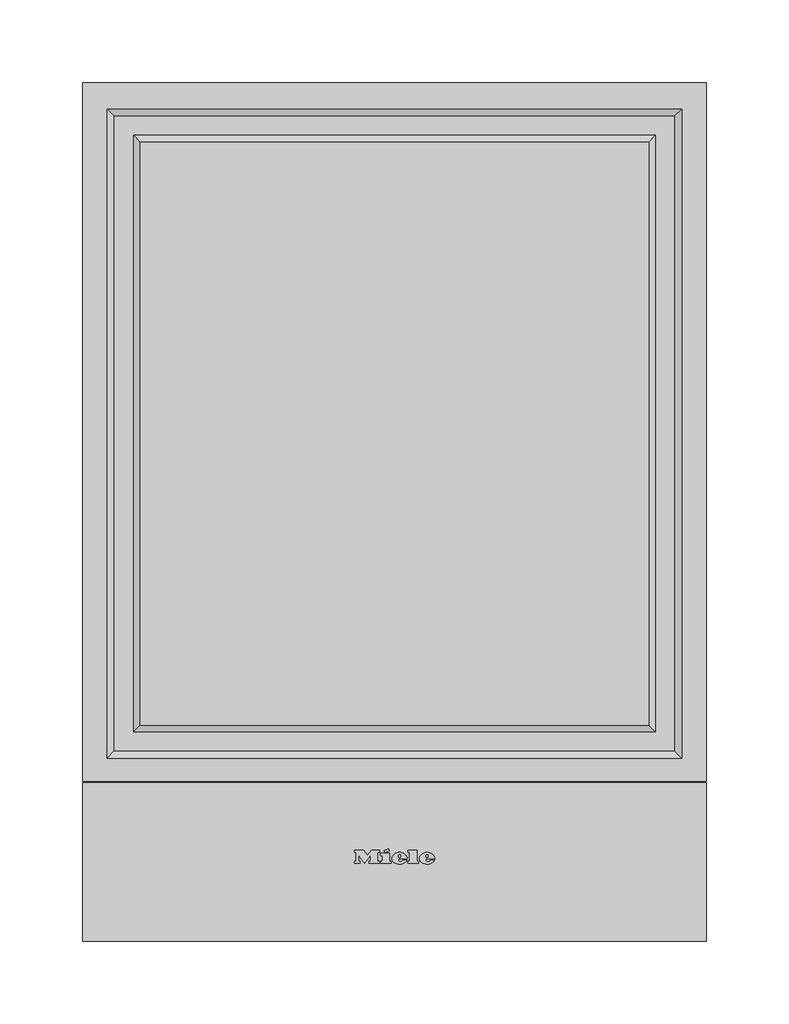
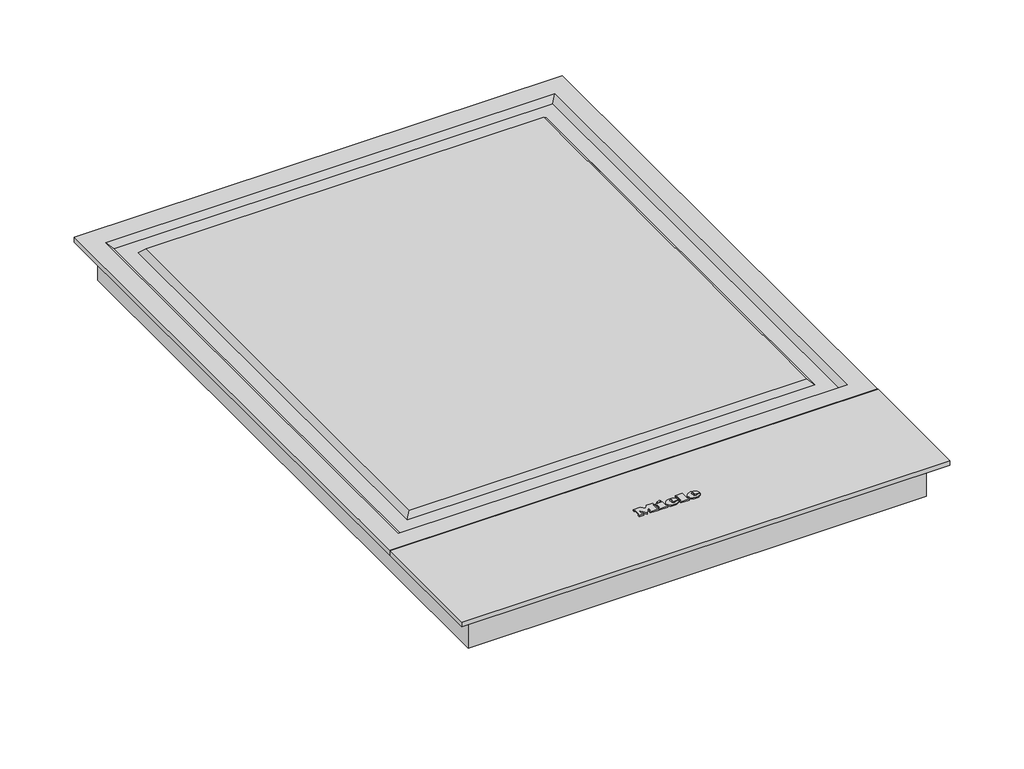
# Not in any storey: 1 proxy.
"""IFC4 building model written with IfcOpenShell, lengths in millimetres."""

import ifcopenshell
import ifcopenshell.guid

model = None  # the IFC model being written
_history = None  # IfcOwnerHistory: only IFC2X3 demands one
_inside = {}  # id of a spatial element -> (the spatial element, [elements in it])
_under = {}  # id of a project, library or spatial element -> (it, [spatial elements below it])
_declared = {}  # id of a project -> (the project, [libraries it declares])
_typed = {}  # id of a type object -> (the type object, [elements of that type])
_made_of = {}  # id of a material, layer set ... -> (it, [elements and type objects made of it])


def new_model(schema):
    """Start an empty IFC model of exactly this schema.

    Asked for "IFC4X3", IfcOpenShell would pick the latest addendum, in which some entities
    have other attributes; the version numbers below select the first issue.
    IFC2X3 requires an IfcOwnerHistory on every rooted entity: one is made here for all.
    """
    global model, _history
    if schema == "IFC4X3":
        model = ifcopenshell.file(schema_version=(4, 3, 0, 0))
    else:
        model = ifcopenshell.file(schema=schema)
    _inside.clear()
    _under.clear()
    _declared.clear()
    _typed.clear()
    _made_of.clear()
    _history = None
    if model.schema == "IFC2X3":
        org = make("IfcOrganization", Name="unknown")
        user = make(
            "IfcPersonAndOrganization",
            ThePerson=make("IfcPerson", FamilyName="unknown"),
            TheOrganization=org,
        )
        app = make(
            "IfcApplication",
            ApplicationDeveloper=org,
            Version="unknown",
            ApplicationFullName="unknown",
            ApplicationIdentifier="unknown",
        )
        _history = make(
            "IfcOwnerHistory",
            OwningUser=user,
            OwningApplication=app,
            ChangeAction="ADDED",
            CreationDate=0,
        )
    return model


def make(cls, **values):
    """One entity of the class cls with the attributes given. An attribute that is None is left unset."""
    return model.create_entity(
        cls, **{name: value for name, value in values.items() if value is not None}
    )


def rooted(cls, **values):
    """An entity with a GlobalId (a new one), such as an element, a storey or a relation."""
    return make(cls, GlobalId=ifcopenshell.guid.new(), OwnerHistory=_history, **values)


def si_unit(unit_type, name, prefix=None):
    """IfcSIUnit, for example si_unit("LENGTHUNIT", "METRE", prefix="MILLI")."""
    return make("IfcSIUnit", UnitType=unit_type, Prefix=prefix, Name=name)


def assignment(units):
    """IfcUnitAssignment: the units of a project."""
    return None if units is None else make("IfcUnitAssignment", Units=units)


def point(xyz):
    """IfcCartesianPoint."""
    return None if xyz is None else make("IfcCartesianPoint", Coordinates=xyz)


def direction(xyz):
    """IfcDirection."""
    return None if xyz is None else make("IfcDirection", DirectionRatios=xyz)


def frame(location, z_axis=None, x_axis=None):
    """IfcAxis2Placement3D, a coordinate frame: its origin and axes. An axis left out is left unset."""
    return make(
        "IfcAxis2Placement3D",
        Location=point(location),
        Axis=direction(z_axis),
        RefDirection=direction(x_axis),
    )


def frame_2d(location, x_axis=None):
    """IfcAxis2Placement2D, a coordinate frame in the plane: its origin and x axis."""
    return make(
        "IfcAxis2Placement2D", Location=point(location), RefDirection=direction(x_axis)
    )


def origin():
    """The frame at (0, 0, 0) with its axes left unset."""
    return frame((0.0, 0.0, 0.0))


def origin_with_axes():
    """The frame at (0, 0, 0) with the z axis (0, 0, 1) and the x axis (1, 0, 0) written out."""
    return frame((0.0, 0.0, 0.0), z_axis=(0.0, 0.0, 1.0), x_axis=(1.0, 0.0, 0.0))


def place(relative_to, where):
    """IfcLocalPlacement: puts the frame where relative to a parent placement (None: the world)."""
    return make(
        "IfcLocalPlacement", PlacementRelTo=relative_to, RelativePlacement=where
    )


def context(
    kind, dimensions, precision=None, world=None, true_north=None, identifier=None
):
    """IfcGeometricRepresentationContext, for example the 3D "Model" context."""
    return make(
        "IfcGeometricRepresentationContext",
        ContextIdentifier=identifier,
        ContextType=kind,
        CoordinateSpaceDimension=dimensions,
        Precision=precision,
        WorldCoordinateSystem=world,
        TrueNorth=true_north,
    )


def project(units=None, contexts=None):
    """IfcProject with its units and contexts."""
    return rooted(
        "IfcProject",
        Name="project",
        RepresentationContexts=contexts,
        UnitsInContext=assignment(units),
    )


def spatial(cls, under=None, at=None, **own):
    """A site, building, storey or space (cls), placed at a placement, below another one or the project."""
    s = rooted(cls, ObjectPlacement=at, **own)
    if under is not None:
        _under.setdefault(under.id(), (under, []))[1].append(s)
    return s


def polyline(points):
    """IfcPolyline through the points."""
    return make("IfcPolyline", Points=[point(p) for p in points])


def circle_curve(where, radius):
    """IfcCircle in the frame where."""
    return make("IfcCircle", Position=where, Radius=radius)


def ellipse_curve(where, semi_axis1, semi_axis2):
    """IfcEllipse in the frame where."""
    return make(
        "IfcEllipse", Position=where, SemiAxis1=semi_axis1, SemiAxis2=semi_axis2
    )


def trimmed(basis, trim1, trim2, sense, master):
    """IfcTrimmedCurve: the piece of a basis curve between two trims."""
    return make(
        "IfcTrimmedCurve",
        BasisCurve=basis,
        Trim1=trim1,
        Trim2=trim2,
        SenseAgreement=sense,
        MasterRepresentation=master,
    )


def segment(curve, same_sense, transition):
    """IfcCompositeCurveSegment."""
    return make(
        "IfcCompositeCurveSegment",
        Transition=transition,
        SameSense=same_sense,
        ParentCurve=curve,
    )


def composite_curve(segments, self_intersect=None):
    """IfcCompositeCurve: segments joined end to end."""
    return make("IfcCompositeCurve", Segments=segments, SelfIntersect=self_intersect)


def outline(outer, holes=None, kind="AREA"):
    """IfcArbitraryClosedProfileDef: a profile drawn as a closed curve; with holes, ...WithVoids."""
    if holes is None:
        return make("IfcArbitraryClosedProfileDef", ProfileType=kind, OuterCurve=outer)
    return make(
        "IfcArbitraryProfileDefWithVoids",
        ProfileType=kind,
        OuterCurve=outer,
        InnerCurves=holes,
    )


def extrude(swept, where, along, depth):
    """IfcExtrudedAreaSolid: the profile swept, set in the frame where, extruded along a direction by depth."""
    return make(
        "IfcExtrudedAreaSolid",
        SweptArea=swept,
        Position=where,
        ExtrudedDirection=direction(along),
        Depth=depth,
    )


def faces_of(points, faces, orient=None, outer=None):
    """IfcFace entities. A face is a list of loops; a loop is a list of indices into points, from 0.

    orient and outer hold one flag for each loop. By default every Orientation is true, the
    first loop of a face is its IfcFaceOuterBound and the others are IfcFaceBound.
    """
    made = []
    for i, loops in enumerate(faces):
        bounds = []
        for j, loop in enumerate(loops):
            is_outer = j == 0 if outer is None else outer[i][j]
            bounds.append(
                make(
                    "IfcFaceOuterBound" if is_outer else "IfcFaceBound",
                    Bound=make("IfcPolyLoop", Polygon=[points[k] for k in loop]),
                    Orientation=True if orient is None else orient[i][j],
                )
            )
        made.append(make("IfcFace", Bounds=bounds))
    return made


def faceted_brep(points, faces, orient=None, outer=None, voids=None):
    """IfcFacetedBrep: a solid bounded by flat faces; with voids (closed shells), ...WithVoids."""
    shared = [point(p) for p in points]
    hull = make("IfcClosedShell", CfsFaces=faces_of(shared, faces, orient, outer))
    if voids is None:
        return make("IfcFacetedBrep", Outer=hull)
    return make(
        "IfcFacetedBrepWithVoids",
        Outer=hull,
        Voids=[
            make(cls, CfsFaces=faces_of(shared, fs, o, b)) for cls, fs, o, b in voids
        ],
    )


def shape(context_of_items, identifier, shape_type, items):
    """IfcShapeRepresentation: the items that make up one representation, for example the "Body"."""
    return make(
        "IfcShapeRepresentation",
        ContextOfItems=context_of_items,
        RepresentationIdentifier=identifier,
        RepresentationType=shape_type,
        Items=items,
    )


def source(mapping_origin, context_of_items, identifier, shape_type, items):
    """IfcRepresentationMap: a shape defined once, which mapped items show again and again."""
    return make(
        "IfcRepresentationMap",
        MappingOrigin=mapping_origin,
        MappedRepresentation=shape(context_of_items, identifier, shape_type, items),
    )


def transform(
    local_origin,
    x_axis=None,
    y_axis=None,
    z_axis=None,
    scale=None,
    scale2=None,
    scale3=None,
    uniform=True,
):
    """IfcCartesianTransformationOperator3D, or its non-uniform kind. x_axis, y_axis, z_axis: its Axis1, 2, 3."""
    if uniform:
        return make(
            "IfcCartesianTransformationOperator3D",
            Axis1=direction(x_axis),
            Axis2=direction(y_axis),
            LocalOrigin=point(local_origin),
            Scale=scale,
            Axis3=direction(z_axis),
        )
    return make(
        "IfcCartesianTransformationOperator3DnonUniform",
        Axis1=direction(x_axis),
        Axis2=direction(y_axis),
        LocalOrigin=point(local_origin),
        Scale=scale,
        Axis3=direction(z_axis),
        Scale2=scale2,
        Scale3=scale3,
    )


def mapped(mapping_source, mapping_target):
    """IfcMappedItem: shows the shape of a source again, moved by a transform."""
    return make(
        "IfcMappedItem", MappingSource=mapping_source, MappingTarget=mapping_target
    )


def made_of(thing, what):
    """Note that an element or type object is made of a material, layer set ...; save() writes the relation."""
    if what is not None:
        _made_of.setdefault(what.id(), (what, []))[1].append(thing)
    return thing


def element(
    cls,
    number,
    at=None,
    inside=None,
    cuts=None,
    type_object=None,
    material=None,
    context=None,
    identifier="Body",
    shape_type=None,
    held_by="IfcProductDefinitionShape",
    body=None,
    shapes=None,
    **own,
):
    """One element of the class cls, such as IfcWall. Its Tag is "e" and its number.

    at: its placement. inside: the storey or other place that contains it. cuts: it is an
    opening in that element (IfcRelVoidsElement). A single representation is given by context,
    identifier, shape_type and body (its items); several are given by shapes. held_by: the class
    of the entity that holds the representations. save() writes the other relations.
    """
    e = rooted(cls, Tag="e%d" % number, ObjectPlacement=at, **own)
    if body is not None:
        shapes = [shape(context, identifier, shape_type, body)]
    if shapes is not None:
        e.Representation = make(held_by, Representations=shapes)
    if inside is not None:
        _inside.setdefault(inside.id(), (inside, []))[1].append(e)
    if cuts is not None:
        rooted(
            "IfcRelVoidsElement", RelatingBuildingElement=cuts, RelatedOpeningElement=e
        )
    if type_object is not None:
        _typed.setdefault(type_object.id(), (type_object, []))[1].append(e)
    return made_of(e, material)


def aggregate(whole, parts):
    """IfcRelAggregates: a whole, such as a stair, and the parts it consists of."""
    return rooted("IfcRelAggregates", RelatingObject=whole, RelatedObjects=parts)


def save(model, path):
    """Write the relations noted so far, then the file.

    IfcRelAggregates (storeys below a building ...), IfcRelContainedInSpatialStructure (elements
    in a storey), IfcRelDefinesByType, IfcRelAssociatesMaterial and IfcRelDeclares: one each for
    every whole, place, type object, material and project.
    """
    for whole, parts in _under.values():
        aggregate(whole, parts)
    for where, things in _inside.values():
        rooted(
            "IfcRelContainedInSpatialStructure",
            RelatedElements=things,
            RelatingStructure=where,
        )
    for kind, things in _typed.values():
        rooted("IfcRelDefinesByType", RelatedObjects=things, RelatingType=kind)
    for what, things in _made_of.values():
        rooted("IfcRelAssociatesMaterial", RelatedObjects=things, RelatingMaterial=what)
    for by, libraries in _declared.values():
        rooted("IfcRelDeclares", RelatingContext=by, RelatedDefinitions=libraries)
    model.write(path)


def plane_surface(at):
    """IfcPlane: the flat surface through the origin of the frame at, square to its z axis."""
    return make("IfcPlane", Position=at)


def cylinder_surface(at, radius):
    """IfcCylindricalSurface: all points at the distance radius from the z axis of the frame at."""
    return make("IfcCylindricalSurface", Position=at, Radius=radius)


def revolved_surface(curve, axis_point, axis_direction):
    """IfcSurfaceOfRevolution: the curve turned about the line through axis_point along axis_direction."""
    return make(
        "IfcSurfaceOfRevolution",
        SweptCurve=make("IfcArbitraryOpenProfileDef", ProfileType="CURVE", Curve=curve),
        AxisPosition=make("IfcAxis1Placement", Location=point(axis_point), Axis=direction(axis_direction)),
    )


def extruded_surface(curve, direction_of_extrusion, depth):
    """IfcSurfaceOfLinearExtrusion: the curve pushed along a direction by depth."""
    return make(
        "IfcSurfaceOfLinearExtrusion",
        SweptCurve=make("IfcArbitraryOpenProfileDef", ProfileType="CURVE", Curve=curve),
        ExtrudedDirection=direction(direction_of_extrusion),
        Depth=depth,
    )


def advanced_brep(points, edges, surfaces, faces):
    """IfcAdvancedBrep: a solid bounded by faces that lie on surfaces and meet in shared edges.

    An edge is (start, end): straight between two places in points (the first is 0);
    or (start, end, curve); or (start, end, curve, False) where it runs against its curve.
    A face is (place in surfaces, loops), or (place, loops, False) where it looks against
    its surface's normal. A loop lists edges by number (the first is 1), with a minus sign
    where the edge is run from its end to its start. The first loop is the outer one.
    """
    corners = [point(p) for p in points]
    vertices = [make("IfcVertexPoint", VertexGeometry=c) for c in corners]
    made = []
    for start, end, *more in edges:
        made.append(
            make(
                "IfcEdgeCurve",
                EdgeStart=vertices[start],
                EdgeEnd=vertices[end],
                EdgeGeometry=more[0] if more else make("IfcPolyline", Points=[corners[start], corners[end]]),
                SameSense=more[1] if len(more) > 1 else True,
            )
        )
    hull = []
    for where, loops, *sense in faces:
        bounds = []
        for j, loop in enumerate(loops):
            ring = [make("IfcOrientedEdge", EdgeElement=made[abs(k) - 1], Orientation=k > 0) for k in loop]
            bounds.append(
                make(
                    "IfcFaceOuterBound" if j == 0 else "IfcFaceBound",
                    Bound=make("IfcEdgeLoop", EdgeList=ring),
                    Orientation=True,
                )
            )
        hull.append(make("IfcAdvancedFace", Bounds=bounds, FaceSurface=surfaces[where], SameSense=sense[0] if sense else True))
    return make("IfcAdvancedBrep", Outer=make("IfcClosedShell", CfsFaces=hull))


def specialty_equipment_c195ef97(model_context):
    return source(origin(), model_context, "Body", "SolidModel", [
        advanced_brep(
        [(19.06, 49.1959995, 4.9919765), (19.06, 50.0039992, 4.9925904), (24.412, 50.0039992, 4.9925904), (15.1, 50.0039992, 4.9925904), (17.3, 47.3, 4.990536), (24.276, 49.1959995, 4.9919765), (21.86, 49.1959995, 4.9919765), (19.956, 48.2999997, 4.9912958), (19.06, 51.0279989, 4.9933684), (19.06, 51.8999987, 4.9940309), (20.428, 51.8999987, 4.9940309), (20.428, 51.0279989, 4.9933684), (19.06, 49.1967592, 3.9919768), (19.956, 48.3007595, 3.9912961), (21.86, 49.1967592, 3.9919768), (24.276, 49.1967592, 3.9919768), (17.3, 47.3007598, 3.9905363), (15.1, 50.004759, 3.9925907), (24.412, 50.004759, 3.9925907), (19.06, 50.004759, 3.9925907), (19.06, 51.0287587, 3.9933687), (20.428, 51.0287587, 3.9933687), (20.428, 51.9007584, 3.9940312), (19.06, 51.9007584, 3.9940312)],
        [
            (0, 1),
            (1, 2),
            (2, 3, ellipse_curve(frame((19.756, 50.0039992, 4.9925904), z_axis=(0.0, -0.0007597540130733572, 0.9999997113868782), x_axis=(-1.0, 0.0, 0.0)), 4.656, 3.848)),
            (3, 4, circle_curve(frame((18.1960436, 50.2759991, 4.9927971), z_axis=(0.0, -0.0007597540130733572, 0.9999997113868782), x_axis=(0.0, -0.9999997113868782, -0.0007597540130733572)), 3.1079688)),
            (4, 5, circle_curve(frame((19.6627936, 52.3879985, 4.9944017), z_axis=(0.0, -0.0007597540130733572, 0.9999997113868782), x_axis=(0.0, -0.9999997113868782, -0.0007597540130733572)), 5.6098607)),
            (5, 6),
            (6, 7, circle_curve(frame((20.3470588, 49.9399992, 4.9925418), z_axis=(0.0, 0.0007597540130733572, -0.9999997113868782), x_axis=(0.0, -0.9999997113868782, -0.0007597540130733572)), 1.6859795)),
            (7, 0, circle_curve(frame((19.956, 49.1959995, 4.9919765), z_axis=(0.0, 0.0007597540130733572, -0.9999997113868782), x_axis=(0.0, -0.9999997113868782, -0.0007597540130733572)), 0.896)),
            (8, 9),
            (9, 10, circle_curve(frame((19.744, 51.8999987, 4.9940309), z_axis=(0.0, 0.0007597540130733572, -0.9999997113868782), x_axis=(0.0, -0.9999997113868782, -0.0007597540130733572)), 0.684)),
            (10, 11),
            (11, 8),
            (12, 13, circle_curve(frame((19.956, 49.1967592, 3.9919768), z_axis=(0.0, -0.0007597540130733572, 0.9999997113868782), x_axis=(0.0, -0.9999997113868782, -0.0007597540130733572)), 0.896)),
            (13, 14, circle_curve(frame((20.3470588, 49.940759, 3.9925421), z_axis=(0.0, -0.0007597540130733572, 0.9999997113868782), x_axis=(0.0, -0.9999997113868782, -0.0007597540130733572)), 1.6859795)),
            (14, 15),
            (15, 16, circle_curve(frame((19.6627936, 52.3887583, 3.994402), z_axis=(0.0, 0.0007597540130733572, -0.9999997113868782), x_axis=(0.0, -0.9999997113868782, -0.0007597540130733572)), 5.6098607)),
            (16, 17, circle_curve(frame((18.1960436, 50.2767589, 3.9927974), z_axis=(0.0, 0.0007597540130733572, -0.9999997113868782), x_axis=(0.0, -0.9999997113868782, -0.0007597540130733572)), 3.1079688)),
            (17, 18, ellipse_curve(frame((19.756, 50.004759, 3.9925907), z_axis=(0.0, 0.0007597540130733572, -0.9999997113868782), x_axis=(-1.0, 0.0, 0.0)), 4.656, 3.848)),
            (18, 19),
            (19, 12),
            (20, 21),
            (21, 22),
            (22, 23, circle_curve(frame((19.744, 51.9007584, 3.9940312), z_axis=(0.0, -0.0007597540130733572, 0.9999997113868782), x_axis=(0.0, -0.9999997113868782, -0.0007597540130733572)), 0.684)),
            (23, 20),
            (0, 12),
            (19, 1),
            (18, 2),
            (5, 15),
            (14, 6),
            (17, 3),
            (13, 7),
            (16, 4),
            (8, 20),
            (23, 9),
            (22, 10),
            (21, 11),
        ],
        [
            plane_surface(frame((19.06, 50.0039992, 4.9925904), z_axis=(0.0, -0.0007597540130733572, 0.9999997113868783), x_axis=(0.0, 0.9999997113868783, 0.0007597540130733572))),
            plane_surface(frame((19.06, 50.004759, 3.9925907), z_axis=(0.0, 0.0007597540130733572, -0.9999997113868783), x_axis=(0.0, -0.9999997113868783, -0.0007597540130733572))),
            plane_surface(frame((19.06, 49.1959995, 4.9919765), z_axis=(1.0, 0.0, 0.0), x_axis=(0.0, 0.0007597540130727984, -0.9999997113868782))),
            plane_surface(frame((19.06, 50.0039992, 4.9925904), z_axis=(0.0, -0.9999997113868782, -0.0007597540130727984), x_axis=(0.0, 0.0007597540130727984, -0.9999997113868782))),
            plane_surface(frame((24.276, 49.1959995, 4.9919765), z_axis=(0.0, 0.9999997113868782, 0.0007597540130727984), x_axis=(0.0, 0.0007597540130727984, -0.9999997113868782))),
            extruded_surface(trimmed(ellipse_curve(frame((19.756, 50.0055187, 2.992591), z_axis=(0.0, -0.0007597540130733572, 0.9999997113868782), x_axis=(-1.0, 0.0, 0.0)), 4.656, 3.848), [point((24.412, 50.0055187, 2.992591))], [point((15.1, 50.0055187, 2.992591))], True, "CARTESIAN"), (0.0, -0.0007597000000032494, 0.9999997), 0.9999999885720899),
            revolved_surface(polyline([(20.3470588, 48.25477998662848, 3.9912611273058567), (20.3470588, 48.25402023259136, 4.991260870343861)]), (20.3470588, 49.940759, 3.9925421), (0.0, 0.0007597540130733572, -0.9999997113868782)),
            revolved_surface(polyline([(19.956, 48.30075945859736, 3.9912960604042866), (19.956, 48.29999970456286, 4.991295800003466)]), (19.956, 49.1967592, 3.9919768), (0.0, 0.0007597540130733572, -0.9999997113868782)),
            cylinder_surface(frame((18.1960436, 50.2767589, 3.9927974), z_axis=(0.0, -0.0007597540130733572, 0.9999997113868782), x_axis=(0.0, -0.9999997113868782, -0.0007597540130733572)), 3.1079688),
            cylinder_surface(frame((19.6627936, 52.3887583, 3.994402), z_axis=(0.0, -0.0007597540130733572, 0.9999997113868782), x_axis=(0.0, -0.9999997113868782, -0.0007597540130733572)), 5.6098607),
            plane_surface(frame((19.06, 51.0279989, 4.9933684), z_axis=(1.0, 0.0, 0.0), x_axis=(0.0, 0.0007597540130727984, -0.9999997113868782))),
            revolved_surface(polyline([(19.744, 51.21675859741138, 3.9935115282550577), (19.744, 51.215998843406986, 4.993511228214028)]), (19.744, 51.9007584, 3.9940312), (0.0, 0.0007597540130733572, -0.9999997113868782)),
            plane_surface(frame((20.428, 51.8999987, 4.9940309), z_axis=(-1.0, 0.0, 0.0), x_axis=(0.0, 0.0007597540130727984, -0.9999997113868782))),
            plane_surface(frame((20.428, 51.0279989, 4.9933684), z_axis=(0.0, 0.9999997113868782, 0.0007597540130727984), x_axis=(0.0, 0.0007597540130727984, -0.9999997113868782))),
        ],
        [
            (0, [[1, 2, 3, 4, 5, 6, 7, 8], [9, 10, 11, 12]]),
            (1, [[13, 14, 15, 16, 17, 18, 19, 20], [21, 22, 23, 24]]),
            (2, [[-1, 25, -20, 26]]),
            (3, [[-2, -26, -19, 27]]),
            (4, [[-6, 28, -15, 29]]),
            (5, [[-3, -27, -18, 30]]),
            (6, [[-7, -29, -14, 31]]),
            (7, [[-8, -31, -13, -25]]),
            (8, [[-4, -30, -17, 32]]),
            (9, [[-5, -32, -16, -28]]),
            (10, [[-9, 33, -24, 34]]),
            (11, [[-10, -34, -23, 35]]),
            (12, [[-11, -35, -22, 36]]),
            (13, [[-12, -36, -21, -33]]),
        ],
    ),
        advanced_brep(
        [(2.364, 49.1959995, 4.9919765), (2.364, 50.0039992, 4.9925904), (7.716, 50.0039992, 4.9925904), (-1.596, 50.0039992, 4.9925904), (0.604, 47.3, 4.990536), (7.58, 49.1959995, 4.9919765), (5.164, 49.1959995, 4.9919765), (3.26, 48.2999997, 4.9912958), (2.364, 51.0279989, 4.9933684), (2.364, 51.8999987, 4.9940309), (3.732, 51.8999987, 4.9940309), (3.732, 51.0279989, 4.9933684), (2.364, 49.1967592, 3.9919768), (3.26, 48.3007595, 3.9912961), (5.164, 49.1967592, 3.9919768), (7.58, 49.1967592, 3.9919768), (0.604, 47.3007598, 3.9905363), (-1.596, 50.004759, 3.9925907), (7.716, 50.004759, 3.9925907), (2.364, 50.004759, 3.9925907), (2.364, 51.0287587, 3.9933687), (3.732, 51.0287587, 3.9933687), (3.732, 51.9007584, 3.9940312), (2.364, 51.9007584, 3.9940312)],
        [
            (0, 1),
            (1, 2),
            (2, 3, ellipse_curve(frame((3.06, 50.0039992, 4.9925904), z_axis=(0.0, -0.0007597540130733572, 0.9999997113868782), x_axis=(-1.0, 0.0, 0.0)), 4.656, 3.848)),
            (3, 4, circle_curve(frame((1.5000436, 50.2759991, 4.9927971), z_axis=(0.0, -0.0007597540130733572, 0.9999997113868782), x_axis=(0.0, -0.9999997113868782, -0.0007597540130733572)), 3.1079688)),
            (4, 5, circle_curve(frame((2.9667936, 52.3879985, 4.9944017), z_axis=(0.0, -0.0007597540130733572, 0.9999997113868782), x_axis=(0.0, -0.9999997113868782, -0.0007597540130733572)), 5.6098607)),
            (5, 6),
            (6, 7, circle_curve(frame((3.6510588, 49.9399992, 4.9925418), z_axis=(0.0, 0.0007597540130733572, -0.9999997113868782), x_axis=(0.0, -0.9999997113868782, -0.0007597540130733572)), 1.6859795)),
            (7, 0, circle_curve(frame((3.26, 49.1959995, 4.9919765), z_axis=(0.0, 0.0007597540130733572, -0.9999997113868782), x_axis=(0.0, -0.9999997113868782, -0.0007597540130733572)), 0.896)),
            (8, 9),
            (9, 10, circle_curve(frame((3.048, 51.8999987, 4.9940309), z_axis=(0.0, 0.0007597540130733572, -0.9999997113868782), x_axis=(0.0, -0.9999997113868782, -0.0007597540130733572)), 0.684)),
            (10, 11),
            (11, 8),
            (12, 13, circle_curve(frame((3.26, 49.1967592, 3.9919768), z_axis=(0.0, -0.0007597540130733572, 0.9999997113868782), x_axis=(0.0, -0.9999997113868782, -0.0007597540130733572)), 0.896)),
            (13, 14, circle_curve(frame((3.6510588, 49.940759, 3.9925421), z_axis=(0.0, -0.0007597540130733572, 0.9999997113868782), x_axis=(0.0, -0.9999997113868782, -0.0007597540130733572)), 1.6859795)),
            (14, 15),
            (15, 16, circle_curve(frame((2.9667936, 52.3887583, 3.994402), z_axis=(0.0, 0.0007597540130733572, -0.9999997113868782), x_axis=(0.0, -0.9999997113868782, -0.0007597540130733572)), 5.6098607)),
            (16, 17, circle_curve(frame((1.5000436, 50.2767589, 3.9927974), z_axis=(0.0, 0.0007597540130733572, -0.9999997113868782), x_axis=(0.0, -0.9999997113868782, -0.0007597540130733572)), 3.1079688)),
            (17, 18, ellipse_curve(frame((3.06, 50.004759, 3.9925907), z_axis=(0.0, 0.0007597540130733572, -0.9999997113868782), x_axis=(-1.0, 0.0, 0.0)), 4.656, 3.848)),
            (18, 19),
            (19, 12),
            (20, 21),
            (21, 22),
            (22, 23, circle_curve(frame((3.048, 51.9007584, 3.9940312), z_axis=(0.0, -0.0007597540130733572, 0.9999997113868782), x_axis=(0.0, -0.9999997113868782, -0.0007597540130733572)), 0.684)),
            (23, 20),
            (0, 12),
            (19, 1),
            (18, 2),
            (5, 15),
            (14, 6),
            (17, 3),
            (13, 7),
            (16, 4),
            (8, 20),
            (23, 9),
            (22, 10),
            (21, 11),
        ],
        [
            plane_surface(frame((2.364, 50.0039992, 4.9925904), z_axis=(0.0, -0.0007597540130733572, 0.9999997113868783), x_axis=(0.0, 0.9999997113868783, 0.0007597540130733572))),
            plane_surface(frame((2.364, 50.004759, 3.9925907), z_axis=(0.0, 0.0007597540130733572, -0.9999997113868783), x_axis=(0.0, -0.9999997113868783, -0.0007597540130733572))),
            plane_surface(frame((2.364, 49.1959995, 4.9919765), z_axis=(1.0, 0.0, 0.0), x_axis=(0.0, 0.0007597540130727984, -0.9999997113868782))),
            plane_surface(frame((2.364, 50.0039992, 4.9925904), z_axis=(0.0, -0.9999997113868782, -0.0007597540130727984), x_axis=(0.0, 0.0007597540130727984, -0.9999997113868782))),
            plane_surface(frame((7.58, 49.1959995, 4.9919765), z_axis=(0.0, 0.9999997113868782, 0.0007597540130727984), x_axis=(0.0, 0.0007597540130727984, -0.9999997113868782))),
            extruded_surface(trimmed(ellipse_curve(frame((3.06, 50.0055187, 2.992591), z_axis=(0.0, -0.0007597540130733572, 0.9999997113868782), x_axis=(-1.0, 0.0, 0.0)), 4.656, 3.848), [point((7.716, 50.0055187, 2.992591))], [point((-1.596, 50.0055187, 2.992591))], True, "CARTESIAN"), (0.0, -0.0007597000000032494, 0.9999997), 0.9999999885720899),
            revolved_surface(polyline([(3.6510588, 48.25477998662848, 3.9912611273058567), (3.6510588, 48.25402023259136, 4.991260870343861)]), (3.6510588, 49.940759, 3.9925421), (0.0, 0.0007597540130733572, -0.9999997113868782)),
            revolved_surface(polyline([(3.26, 48.30075945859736, 3.9912960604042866), (3.26, 48.29999970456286, 4.991295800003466)]), (3.26, 49.1967592, 3.9919768), (0.0, 0.0007597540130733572, -0.9999997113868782)),
            cylinder_surface(frame((1.5000436, 50.2767589, 3.9927974), z_axis=(0.0, -0.0007597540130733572, 0.9999997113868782), x_axis=(0.0, -0.9999997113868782, -0.0007597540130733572)), 3.1079688),
            cylinder_surface(frame((2.9667936, 52.3887583, 3.994402), z_axis=(0.0, -0.0007597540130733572, 0.9999997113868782), x_axis=(0.0, -0.9999997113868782, -0.0007597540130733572)), 5.6098607),
            plane_surface(frame((2.364, 51.0279989, 4.9933684), z_axis=(1.0, 0.0, 0.0), x_axis=(0.0, 0.0007597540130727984, -0.9999997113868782))),
            revolved_surface(polyline([(3.048, 51.21675859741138, 3.9935115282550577), (3.048, 51.215998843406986, 4.993511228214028)]), (3.048, 51.9007584, 3.9940312), (0.0, 0.0007597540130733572, -0.9999997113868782)),
            plane_surface(frame((3.732, 51.8999987, 4.9940309), z_axis=(-1.0, 0.0, 0.0), x_axis=(0.0, 0.0007597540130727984, -0.9999997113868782))),
            plane_surface(frame((3.732, 51.0279989, 4.9933684), z_axis=(0.0, 0.9999997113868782, 0.0007597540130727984), x_axis=(0.0, 0.0007597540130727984, -0.9999997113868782))),
        ],
        [
            (0, [[1, 2, 3, 4, 5, 6, 7, 8], [9, 10, 11, 12]]),
            (1, [[13, 14, 15, 16, 17, 18, 19, 20], [21, 22, 23, 24]]),
            (2, [[-1, 25, -20, 26]]),
            (3, [[-2, -26, -19, 27]]),
            (4, [[-6, 28, -15, 29]]),
            (5, [[-3, -27, -18, 30]]),
            (6, [[-7, -29, -14, 31]]),
            (7, [[-8, -31, -13, -25]]),
            (8, [[-4, -30, -17, 32]]),
            (9, [[-5, -32, -16, -28]]),
            (10, [[-9, 33, -24, 34]]),
            (11, [[-10, -34, -23, 35]]),
            (12, [[-11, -35, -22, 36]]),
            (13, [[-12, -36, -21, -33]]),
        ],
    ),
        extrude(outline(polyline([(0.0, 0.0), (-0.0109086, -2.9993294), (-1.4390415, -2.9920868), (-1.4315306, 0.0), (0.0, 0.0)])), frame((-6.38, 54.8287576, 3.9962558), z_axis=(0.0, -0.0007597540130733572, 0.9999997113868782), x_axis=(-0.42472021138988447, 0.9053243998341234, 0.0006878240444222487)), (0.0, 0.0, 1.0), 1.0),
        extrude(outline(polyline([(-0.4933908, 2.4141097), (-2.7800844, -2.4601583), (-7.0459742, -0.4588767), (-7.4401145, -1.2990179), (-8.6568709, -0.728194), (-5.9760369, 4.9862153), (-4.7592806, 4.4153913), (-5.1636142, 3.5535222), (-2.1941494, 2.16044), (-1.7898157, 3.022309), (-0.4933908, 2.4141097)])), frame((-6.38, 54.8287576, 3.9962558), z_axis=(0.0, -0.0007597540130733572, 0.9999997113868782), x_axis=(-0.42472021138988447, 0.9053243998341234, 0.0006878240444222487)), (0.0, 0.0, 1.0), 1.0),
        extrude(outline(polyline([(0.0, 0.0), (0.0, -1.304), (-5.504, -1.304), (-5.504, 5.3519999), (-6.488, 5.3519999), (-6.488, 6.6959999), (0.0, 6.6959999), (0.0, 5.3519999), (-0.96, 5.3519999), (-0.96, 0.0), (0.0, 0.0)])), frame((8.164, 53.9967578, 3.9956236), z_axis=(0.0, -0.0007597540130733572, 0.9999997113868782), x_axis=(-1.0, 0.0, 0.0)), (0.0, 0.0, 1.0), 1.0),
        extrude(outline(polyline([(0.0, 0.0), (0.0, -1.304), (-5.576, -1.304), (-7.92, 1.696), (-10.256, -1.304), (-15.128, -1.304), (-15.128, 0.0), (-14.112, 0.0), (-14.112, 5.3519999), (-15.128, 5.3519999), (-15.128, 6.6959999), (-8.744, 6.6959999), (-8.744, 5.3519999), (-9.728, 5.3519999), (-9.728, 1.8807776), (-6.136, 6.6959999), (-2.56, 1.9488753), (-2.56, 5.3519999), (-3.52, 5.3519999), (-3.52, 6.6959999), (0.0, 6.6959999), (0.0, 5.3519999), (-0.968, 5.3519999), (-0.968, 0.0), (0.0, 0.0)])), frame((-24.3, 53.9967578, 3.9956236), z_axis=(0.0, -0.0007597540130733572, 0.9999997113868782), x_axis=(-1.0, 0.0, 0.0)), (0.0, 0.0, 1.0), 1.0),
        extrude(outline(polyline([(-114.0, 103.9), (-114.0, 475.2), (114.0, 475.2), (114.0, 446.5), (137.6, 446.5), (137.6, 196.5), (114.0, 196.5), (114.0, 103.9), (-114.0, 103.9)])), frame((0.0, 0.0, -55.1), z_axis=(0.0, 0.0, 1.0), x_axis=(1.0, 0.0, 0.0)), (0.0, 0.0, 1.0), 26.8),
        faceted_brep([(189.0, 520.0, 4.0), (-189.0, 520.0, 4.0), (-189.0, 97.0, 4.0), (189.0, 97.0, 4.0), (174.0, 504.0, 4.0), (174.0, 111.0, 4.0), (-174.0, 111.0, 4.0), (-174.0, 504.0, 4.0), (154.0, 131.0, 4.0), (154.0, 484.0, 4.0), (-154.0, 484.0, 4.0), (-154.0, 131.0, 4.0), (189.0, 520.0, 0.0), (189.0, 97.0, 0.0), (177.5, 97.0, 0.0), (177.5, 508.5, 0.0), (-177.5, 508.5, 0.0), (-177.5, 97.0, 0.0), (-189.0, 97.0, 0.0), (-189.0, 520.0, 0.0), (158.0, 127.0, 0.0), (158.0, 488.0, 0.0), (170.0, 115.0, 0.0), (170.0, 500.0, 0.0), (-158.0, 127.0, 0.0), (-170.0, 115.0, 0.0), (-158.0, 488.0, 0.0), (-170.0, 500.0, 0.0), (177.5, 508.5, -28.3), (177.5, 11.5, -28.3), (-177.5, 11.5, -28.3), (-177.5, 508.5, -28.3), (-177.5, 11.5, 0.0), (177.5, 11.5, 0.0)], [[[0, 1, 2, 3], [4, 5, 6, 7]], [[8, 9, 10, 11]], [[12, 13, 14, 15, 16, 17, 18, 19]], [[1, 0, 12, 19]], [[2, 1, 19, 18]], [[3, 2, 18, 17, 14, 13]], [[0, 3, 13, 12]], [[8, 20, 21, 9]], [[22, 5, 4, 23]], [[20, 8, 11, 24]], [[5, 22, 25, 6]], [[24, 11, 10, 26]], [[6, 25, 27, 7]], [[26, 10, 9, 21]], [[7, 27, 23, 4]], [[28, 29, 30, 31]], [[22, 23, 27, 25], [21, 20, 24, 26]], [[32, 33, 14, 17]], [[28, 31, 16, 15]], [[31, 30, 32, 17, 16]], [[30, 29, 33, 32]], [[29, 28, 15, 14, 33]]]),
        extrude(outline(polyline([(177.5, 508.5), (177.5, 11.5), (-177.5, 11.5), (-177.5, 508.5), (177.5, 508.5)])), frame((0.0, 0.0, -28.3), z_axis=(0.0, 0.0, 1.0), x_axis=(1.0, 0.0, 0.0)), (0.0, 0.0, 1.0), 28.3),
        extrude(outline(polyline([(189.0, 96.0), (189.0, 0.0), (-189.0, 0.0), (-189.0, 96.0), (189.0, 96.0)])), origin_with_axes(), (0.0, 0.0, 1.0), 4.0),
        extrude(outline(polyline([(-136.5, 483.3), (-136.5, 467.3), (-152.5, 467.3), (-152.5, 483.3), (-136.5, 483.3)])), frame((0.0, 0.0, -34.2), z_axis=(0.0, 0.0, 1.0), x_axis=(1.0, 0.0, 0.0)), (0.0, 0.0, 1.0), 5.9),
        extrude(outline(polyline([(152.5, 149.7), (152.5, 133.7), (136.5, 133.7), (136.5, 149.7), (152.5, 149.7)])), frame((0.0, 0.0, -34.2), z_axis=(0.0, 0.0, 1.0), x_axis=(1.0, 0.0, 0.0)), (0.0, 0.0, 1.0), 5.9),
        extrude(outline(polyline([(447.3772603, -41.1482183), (440.0, -41.1482183), (440.0, -39.8925144), (446.1215564, -39.8925144), (446.1215564, -36.5962918), (440.470889, -36.5962918), (440.470889, -35.3405879), (446.1215564, -35.3405879), (446.1215564, -32.3582912), (440.156963, -32.3582912), (440.156963, -31.1025873), (447.3772603, -31.1025873), (447.3772603, -41.1482183)])), frame((-145.0, 0.0, 0.0), z_axis=(1.0, 0.0, 0.0), x_axis=(0.0, 1.0, 0.0)), (0.0, 0.0, 1.0), 1.0),
        extrude(outline(polyline([(438.1164442, -41.1482183), (431.8379248, -41.1482183), (431.8379248, -39.8925144), (436.8607403, -39.8925144), (436.8607403, -31.1025873), (438.1164442, -31.1025873), (438.1164442, -41.1482183)])), frame((-145.0, 0.0, 0.0), z_axis=(1.0, 0.0, 0.0), x_axis=(0.0, 1.0, 0.0)), (0.0, 0.0, 1.0), 1.0),
        extrude(outline(composite_curve([segment(trimmed(circle_curve(frame_2d((440.0, -36.0)), 8.0), [point((448.0, -36.0))], [point((432.0, -36.0))], False, "CARTESIAN"), True, "CONTINUOUS"), segment(trimmed(circle_curve(frame_2d((440.0, -36.0)), 8.0), [point((432.0, -36.0))], [point((448.0, -36.0))], False, "CARTESIAN"), True, "CONTINUOUS")], self_intersect=False)), frame((-144.0, 0.0, 0.0), z_axis=(1.0, 0.0, 0.0), x_axis=(0.0, 1.0, 0.0)), (0.0, 0.0, 1.0), 30.0),
    ])


model = new_model("IFC4")

# Units and contexts
model_context = context("Model", 3, world=origin())
ifc_project = project(units=[si_unit("LENGTHUNIT", "METRE", prefix="MILLI")], contexts=[model_context])

# Site, building
site = spatial("IfcSite", under=ifc_project)
building = spatial("IfcBuilding", under=site)

# Proxy
placement = place(None, origin())
specialty_equipment_shape = specialty_equipment_c195ef97(model_context)
element("IfcBuildingElementProxy", 1, Name="10787050_AUS_CS7632FL : 27763250_AUS_10787050_CS7632FL", ObjectType="10787050_AUS_CS7632FL : 27763250_AUS_10787050_CS7632FL", at=placement, inside=building, context=model_context, shape_type="MappedRepresentation", body=[
    mapped(specialty_equipment_shape, transform((0.0, 0.0, 0.0), x_axis=(1.0, 0.0, 0.0), y_axis=(0.0, 1.0, 0.0), z_axis=(0.0, 0.0, 1.0))),
])

save(model, "model.ifc")
